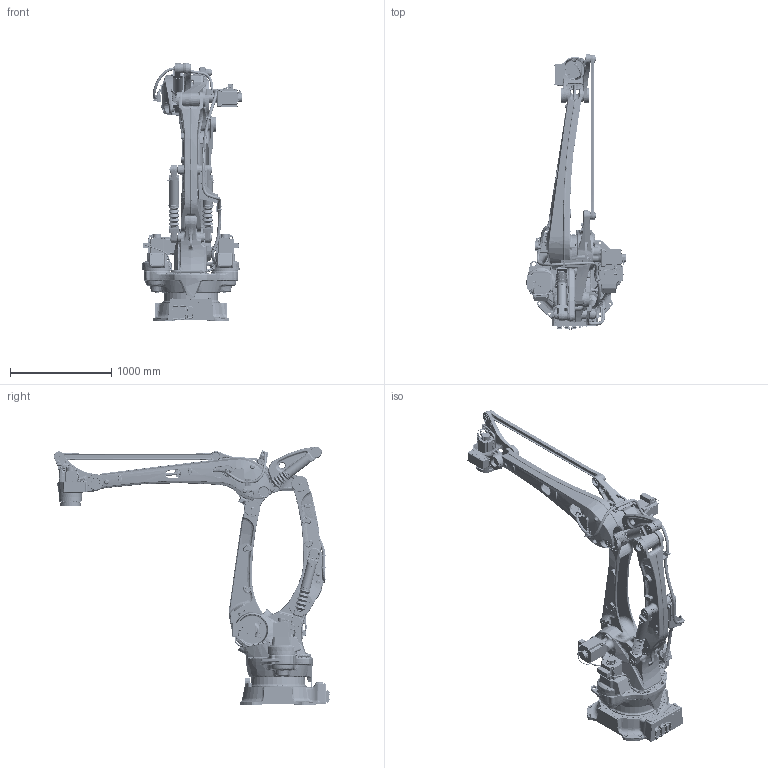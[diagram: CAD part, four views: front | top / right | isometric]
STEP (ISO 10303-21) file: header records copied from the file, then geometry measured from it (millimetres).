
FILE_DESCRIPTION(('CATIA V5 STEP Exchange'),'2;1');
FILE_NAME('D:\モデリング\☆☆☆STEP\CP\CP700\CP700L-AC01_RARAS_201110\軽量化\Part\CP700L-AC01.stp','2020-11-10T08:51:55+00:00',('none'),('none'),'CATIA Version 5-6 Release 2016 SP6 HF14','CATIA V5 STEP AP203','none');
FILE_SCHEMA(('CONFIG_CONTROL_DESIGN'));
Products named in the file (1): CP700L-AC01
Assembly tree (13 placements, depth 2):
  CP700L-AC01
    #57
    #71600
    #223926
    #270657
    #368609
    #374536
    #446633
    #453030
    #543539
    #618373
    #631961
    #656612
    #663098
Bounding box: 985.45 x 2729.42 x 2561.59 mm (x, y, z)
Volume: 405323703.9 mm3; surface area: 17678526.2 mm2
Topology: 76 solids, 77 shells, 15539 faces, 38054 edges, 23215 vertices
Faces by surface type: cylinder 5231, plane 4850, bspline 2565, cone 1222, torus 1100, sphere 344, extrusion 179, revolution 48
Entity records: 672351 total; most frequent: CARTESIAN_POINT 348492, ORIENTED_EDGE 74642, DIRECTION 49188, EDGE_CURVE 37321, AXIS2_PLACEMENT_3D 23875, VERTEX_POINT 23215, EDGE_LOOP 17148, ADVANCED_FACE 15539
